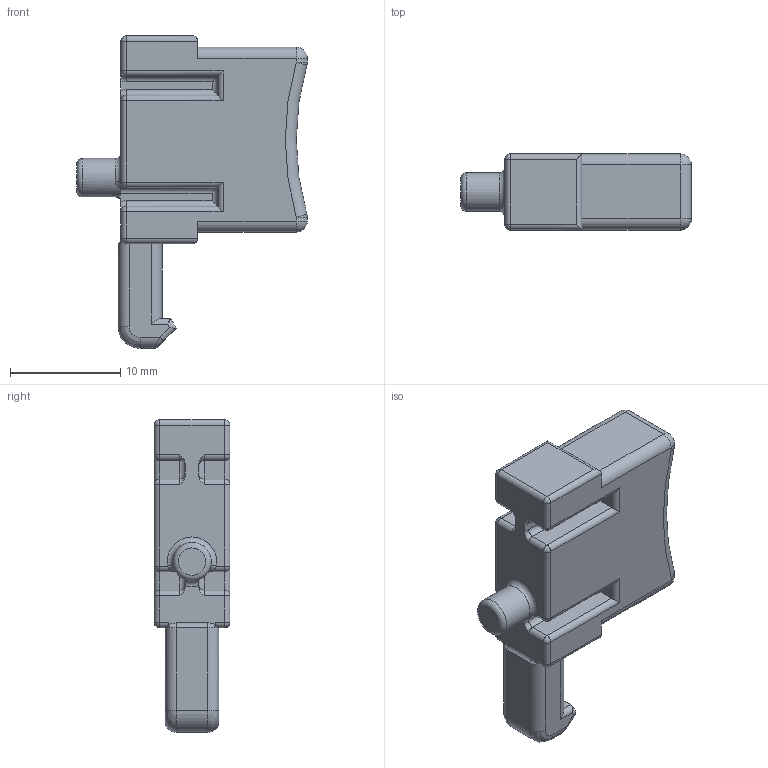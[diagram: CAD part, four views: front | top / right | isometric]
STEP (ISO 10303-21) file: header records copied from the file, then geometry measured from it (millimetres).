
FILE_DESCRIPTION(/* description */ ('Druckknopf für Rolleverschluss'),/* implementation_level */ '2;1');
FILE_NAME(/* name */ 'P:\3D-Druck\Sven Hedin\Rolloverschluss\Endstück 281 070 402 D.stp',/* time_stamp */ '2024-09-27T15:41:21+02:00',/* author */ ('fk'),/* organization */ (''),/* preprocessor_version */ 'ST-DEVELOPER v18.1',/* originating_system */ 'Autodesk Inventor 2022',/* authorisation */ '');
FILE_SCHEMA (('AUTOMOTIVE_DESIGN { 1 0 10303 214 3 1 1 }'));
Length unit declared in the file: millimetre
Products named in the file (1): Knopf
Bounding box: 20.95 x 6.9 x 28.4 mm (x, y, z)
Volume: 2028.6 mm3; surface area: 1382.1 mm2
Topology: 1 solids, 1 shells, 154 faces, 356 edges, 204 vertices
Faces by surface type: cylinder 76, plane 39, sphere 20, torus 11, bspline 8
Full cylindrical faces by diameter (mm): 3.5 x1
Entity records: 4666 total; most frequent: CARTESIAN_POINT 1123, DIRECTION 777, ORIENTED_EDGE 712, EDGE_CURVE 356, AXIS2_PLACEMENT_3D 298, VERTEX_POINT 204, LINE 181, VECTOR 181
